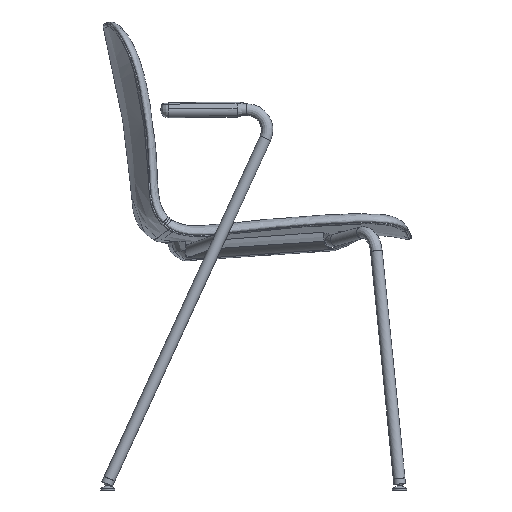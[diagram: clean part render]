
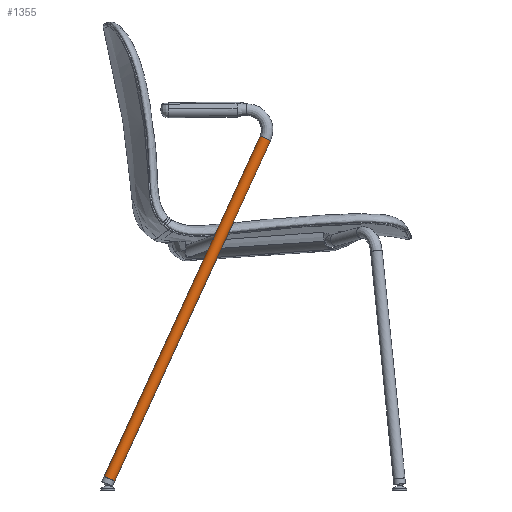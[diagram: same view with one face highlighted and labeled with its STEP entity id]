
A CAD part, left-side view. The second image highlights one B-rep face of the part: STEP entity #1355.
In plain terms, the highlighted cylindrical face has radius 10 mm (diameter 20 mm), a full revolution.
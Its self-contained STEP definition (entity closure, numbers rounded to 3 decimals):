
#100=(
BOUNDED_CURVE()
B_SPLINE_CURVE(3,(#84674,#84675,#84676,#84677),.UNSPECIFIED.,.F.,.F.)
B_SPLINE_CURVE_WITH_KNOTS((4,4),(0.,643.823),.UNSPECIFIED.)
CURVE()
GEOMETRIC_REPRESENTATION_ITEM()
RATIONAL_B_SPLINE_CURVE((1.,1.,1.,1.))
REPRESENTATION_ITEM('')
);
#101=(
BOUNDED_CURVE()
B_SPLINE_CURVE(2,(#84678,#84679,#84680,#84681,#84682,#84683,#84684,#84685,
#84686),.UNSPECIFIED.,.T.,.F.)
B_SPLINE_CURVE_WITH_KNOTS((3,2,2,2,3),(0.,15.708,31.416,
47.124,62.832),.UNSPECIFIED.)
CURVE()
GEOMETRIC_REPRESENTATION_ITEM()
RATIONAL_B_SPLINE_CURVE((1.,0.707,1.,0.707,1.,0.707,
1.,0.707,1.))
REPRESENTATION_ITEM('')
);
#102=(
BOUNDED_CURVE()
B_SPLINE_CURVE(2,(#84687,#84688,#84689,#84690,#84691,#84692,#84693,#84694,
#84695),.UNSPECIFIED.,.T.,.F.)
B_SPLINE_CURVE_WITH_KNOTS((3,2,2,2,3),(-62.832,-47.124,
-31.416,-15.708,0.),.UNSPECIFIED.)
CURVE()
GEOMETRIC_REPRESENTATION_ITEM()
RATIONAL_B_SPLINE_CURVE((1.,0.707,1.,0.707,1.,0.707,
1.,0.707,1.))
REPRESENTATION_ITEM('')
);
#288=CYLINDRICAL_SURFACE('',#15951,10.);
#1355=ADVANCED_FACE('',(#2293),#288,.T.);
#2293=FACE_OUTER_BOUND('',#3316,.T.);
#3316=EDGE_LOOP('',(#8006,#8007,#8008,#8009));
#8006=ORIENTED_EDGE('',*,*,#10545,.F.);
#8007=ORIENTED_EDGE('',*,*,#10543,.T.);
#8008=ORIENTED_EDGE('',*,*,#10544,.F.);
#8009=ORIENTED_EDGE('',*,*,#10543,.F.);
#10543=EDGE_CURVE('',#14500,#14501,#100,.T.);
#10544=EDGE_CURVE('',#14501,#14501,#101,.T.);
#10545=EDGE_CURVE('',#14500,#14500,#102,.T.);
#14500=VERTEX_POINT('',#84670);
#14501=VERTEX_POINT('',#84671);
#15951=AXIS2_PLACEMENT_3D('',#84569,#16511,$);
#16511=DIRECTION('',(0.043,-0.416,0.908));
#84569=CARTESIAN_POINT('',(-265.288,136.495,311.347));
#84670=CARTESIAN_POINT('',(-279.287,279.565,23.142));
#84671=CARTESIAN_POINT('',(-251.289,11.607,607.883));
#84674=CARTESIAN_POINT('',(-279.287,279.565,23.142));
#84675=CARTESIAN_POINT('',(-269.954,190.245,218.056));
#84676=CARTESIAN_POINT('',(-260.622,100.926,412.97));
#84677=CARTESIAN_POINT('',(-251.289,11.607,607.883));
#84678=CARTESIAN_POINT('',(-251.289,11.607,607.883));
#84679=CARTESIAN_POINT('',(-261.28,11.425,608.279));
#84680=CARTESIAN_POINT('',(-261.28,2.334,604.113));
#84681=CARTESIAN_POINT('',(-261.28,-6.756,599.947));
#84682=CARTESIAN_POINT('',(-251.289,-6.575,599.552));
#84683=CARTESIAN_POINT('',(-241.299,-6.394,599.156));
#84684=CARTESIAN_POINT('',(-241.299,2.697,603.322));
#84685=CARTESIAN_POINT('',(-241.299,11.788,607.488));
#84686=CARTESIAN_POINT('',(-251.289,11.607,607.883));
#84687=CARTESIAN_POINT('',(-279.287,279.565,23.142));
#84688=CARTESIAN_POINT('',(-269.296,279.746,22.746));
#84689=CARTESIAN_POINT('',(-269.296,270.655,18.581));
#84690=CARTESIAN_POINT('',(-269.296,261.564,14.415));
#84691=CARTESIAN_POINT('',(-279.287,261.383,14.81));
#84692=CARTESIAN_POINT('',(-289.277,261.202,15.205));
#84693=CARTESIAN_POINT('',(-289.277,270.293,19.371));
#84694=CARTESIAN_POINT('',(-289.277,279.384,23.537));
#84695=CARTESIAN_POINT('',(-279.287,279.565,23.142));
